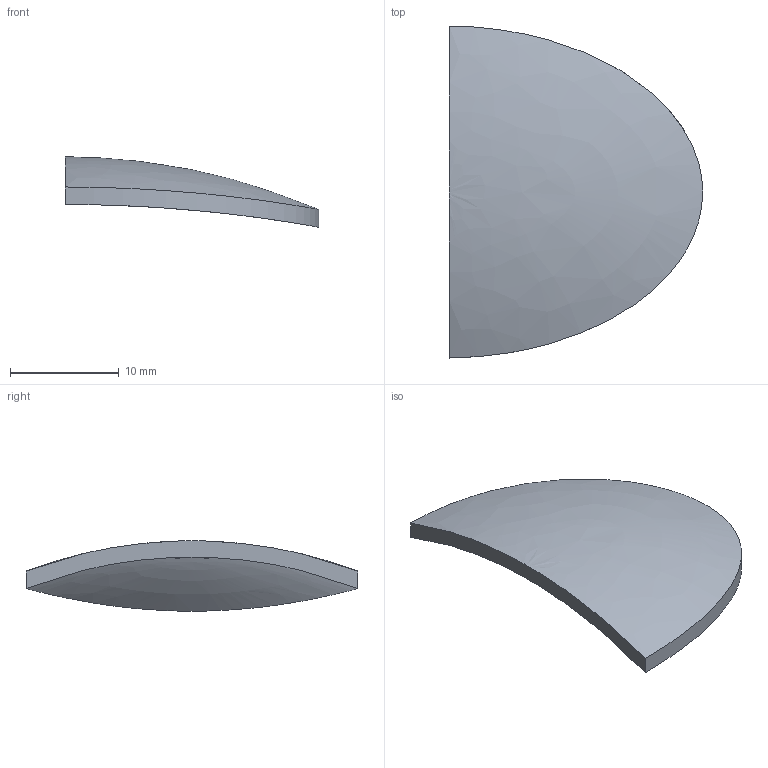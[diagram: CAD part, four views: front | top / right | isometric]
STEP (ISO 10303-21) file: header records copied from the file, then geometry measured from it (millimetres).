
FILE_DESCRIPTION(('FreeCAD Model'),'2;1');
FILE_NAME('Open CASCADE Shape Model','2026-11-20T08:25:32',('FreeCAD'),( 'FreeCAD'),'Open CASCADE STEP processor 7.8','FreeCAD','Unknown');
FILE_SCHEMA(('AUTOMOTIVE_DESIGN { 1 0 10303 214 1 1 1 1 }'));
Length unit declared in the file: millimetre
Products named in the file (1): Open CASCADE STEP translator 7.8 2
Bounding box: 23.3 x 30.53 x 6.47 mm (x, y, z)
Volume: 866.9 mm3; surface area: 1302.6 mm2
Topology: 1 solids, 1 shells, 5 faces, 11 edges, 8 vertices
Faces by surface type: extrusion 2, bspline 2, plane 1
Entity records: 1591 total; most frequent: CARTESIAN_POINT 1495, ORIENTED_EDGE 22, EDGE_CURVE 11, B_SPLINE_CURVE_WITH_KNOTS 10, VERTEX_POINT 8, DIRECTION 7, ADVANCED_FACE 5, FACE_BOUND 5
